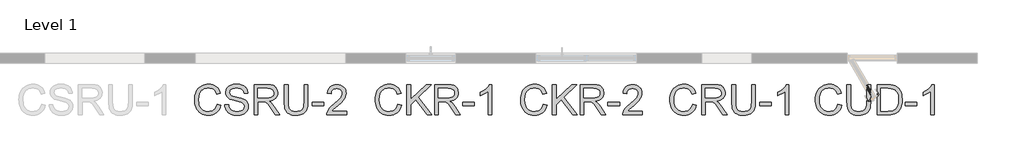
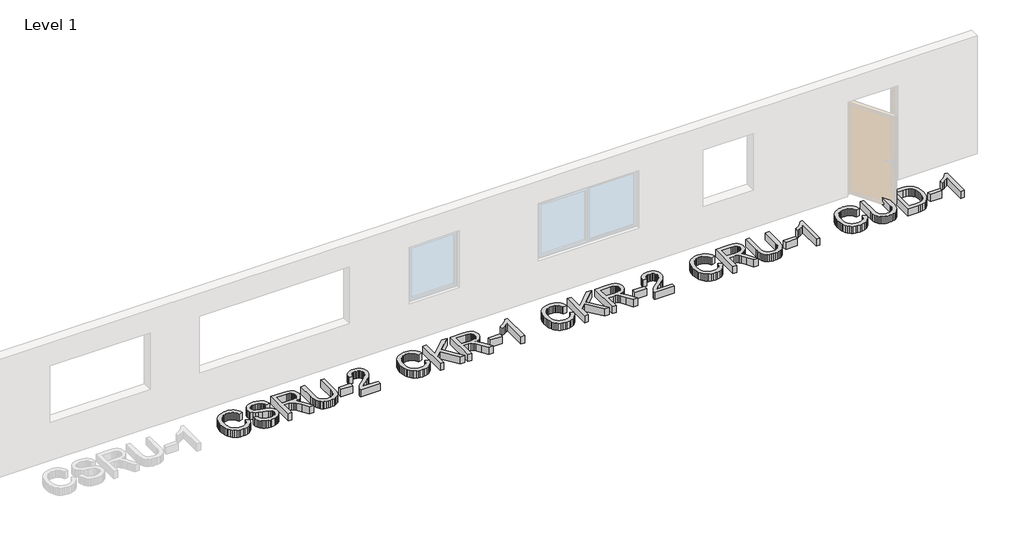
# One storey, part 2 of 2: 5 proxies.
"""IFC4 building model written with IfcOpenShell, lengths in millimetres."""

import ifcopenshell
import ifcopenshell.guid

model = None  # the IFC model being written
_history = None  # IfcOwnerHistory: only IFC2X3 demands one
_inside = {}  # id of a spatial element -> (the spatial element, [elements in it])
_under = {}  # id of a project, library or spatial element -> (it, [spatial elements below it])
_declared = {}  # id of a project -> (the project, [libraries it declares])
_typed = {}  # id of a type object -> (the type object, [elements of that type])
_made_of = {}  # id of a material, layer set ... -> (it, [elements and type objects made of it])


def new_model(schema):
    """Start an empty IFC model of exactly this schema.

    Asked for "IFC4X3", IfcOpenShell would pick the latest addendum, in which some entities
    have other attributes; the version numbers below select the first issue.
    IFC2X3 requires an IfcOwnerHistory on every rooted entity: one is made here for all.
    """
    global model, _history
    if schema == "IFC4X3":
        model = ifcopenshell.file(schema_version=(4, 3, 0, 0))
    else:
        model = ifcopenshell.file(schema=schema)
    _inside.clear()
    _under.clear()
    _declared.clear()
    _typed.clear()
    _made_of.clear()
    _history = None
    if model.schema == "IFC2X3":
        org = make("IfcOrganization", Name="unknown")
        user = make(
            "IfcPersonAndOrganization",
            ThePerson=make("IfcPerson", FamilyName="unknown"),
            TheOrganization=org,
        )
        app = make(
            "IfcApplication",
            ApplicationDeveloper=org,
            Version="unknown",
            ApplicationFullName="unknown",
            ApplicationIdentifier="unknown",
        )
        _history = make(
            "IfcOwnerHistory",
            OwningUser=user,
            OwningApplication=app,
            ChangeAction="ADDED",
            CreationDate=0,
        )
    return model


def make(cls, **values):
    """One entity of the class cls with the attributes given. An attribute that is None is left unset."""
    return model.create_entity(
        cls, **{name: value for name, value in values.items() if value is not None}
    )


def rooted(cls, **values):
    """An entity with a GlobalId (a new one), such as an element, a storey or a relation."""
    return make(cls, GlobalId=ifcopenshell.guid.new(), OwnerHistory=_history, **values)


def si_unit(unit_type, name, prefix=None):
    """IfcSIUnit, for example si_unit("LENGTHUNIT", "METRE", prefix="MILLI")."""
    return make("IfcSIUnit", UnitType=unit_type, Prefix=prefix, Name=name)


def assignment(units):
    """IfcUnitAssignment: the units of a project."""
    return None if units is None else make("IfcUnitAssignment", Units=units)


def point(xyz):
    """IfcCartesianPoint."""
    return None if xyz is None else make("IfcCartesianPoint", Coordinates=xyz)


def direction(xyz):
    """IfcDirection."""
    return None if xyz is None else make("IfcDirection", DirectionRatios=xyz)


def frame(location, z_axis=None, x_axis=None):
    """IfcAxis2Placement3D, a coordinate frame: its origin and axes. An axis left out is left unset."""
    return make(
        "IfcAxis2Placement3D",
        Location=point(location),
        Axis=direction(z_axis),
        RefDirection=direction(x_axis),
    )


def origin():
    """The frame at (0, 0, 0) with its axes left unset."""
    return frame((0.0, 0.0, 0.0))


def origin_with_axes():
    """The frame at (0, 0, 0) with the z axis (0, 0, 1) and the x axis (1, 0, 0) written out."""
    return frame((0.0, 0.0, 0.0), z_axis=(0.0, 0.0, 1.0), x_axis=(1.0, 0.0, 0.0))


def place(relative_to, where):
    """IfcLocalPlacement: puts the frame where relative to a parent placement (None: the world)."""
    return make(
        "IfcLocalPlacement", PlacementRelTo=relative_to, RelativePlacement=where
    )


def context(
    kind, dimensions, precision=None, world=None, true_north=None, identifier=None
):
    """IfcGeometricRepresentationContext, for example the 3D "Model" context."""
    return make(
        "IfcGeometricRepresentationContext",
        ContextIdentifier=identifier,
        ContextType=kind,
        CoordinateSpaceDimension=dimensions,
        Precision=precision,
        WorldCoordinateSystem=world,
        TrueNorth=true_north,
    )


def project(units=None, contexts=None):
    """IfcProject with its units and contexts."""
    return rooted(
        "IfcProject",
        Name="project",
        RepresentationContexts=contexts,
        UnitsInContext=assignment(units),
    )


def spatial(cls, under=None, at=None, **own):
    """A site, building, storey or space (cls), placed at a placement, below another one or the project."""
    s = rooted(cls, ObjectPlacement=at, **own)
    if under is not None:
        _under.setdefault(under.id(), (under, []))[1].append(s)
    return s


def polyline(points):
    """IfcPolyline through the points."""
    return make("IfcPolyline", Points=[point(p) for p in points])


def outline(outer, holes=None, kind="AREA"):
    """IfcArbitraryClosedProfileDef: a profile drawn as a closed curve; with holes, ...WithVoids."""
    if holes is None:
        return make("IfcArbitraryClosedProfileDef", ProfileType=kind, OuterCurve=outer)
    return make(
        "IfcArbitraryProfileDefWithVoids",
        ProfileType=kind,
        OuterCurve=outer,
        InnerCurves=holes,
    )


def extrude(swept, where, along, depth):
    """IfcExtrudedAreaSolid: the profile swept, set in the frame where, extruded along a direction by depth."""
    return make(
        "IfcExtrudedAreaSolid",
        SweptArea=swept,
        Position=where,
        ExtrudedDirection=direction(along),
        Depth=depth,
    )


def shape(context_of_items, identifier, shape_type, items):
    """IfcShapeRepresentation: the items that make up one representation, for example the "Body"."""
    return make(
        "IfcShapeRepresentation",
        ContextOfItems=context_of_items,
        RepresentationIdentifier=identifier,
        RepresentationType=shape_type,
        Items=items,
    )


def made_of(thing, what):
    """Note that an element or type object is made of a material, layer set ...; save() writes the relation."""
    if what is not None:
        _made_of.setdefault(what.id(), (what, []))[1].append(thing)
    return thing


def element(
    cls,
    number,
    at=None,
    inside=None,
    cuts=None,
    type_object=None,
    material=None,
    context=None,
    identifier="Body",
    shape_type=None,
    held_by="IfcProductDefinitionShape",
    body=None,
    shapes=None,
    **own,
):
    """One element of the class cls, such as IfcWall. Its Tag is "e" and its number.

    at: its placement. inside: the storey or other place that contains it. cuts: it is an
    opening in that element (IfcRelVoidsElement). A single representation is given by context,
    identifier, shape_type and body (its items); several are given by shapes. held_by: the class
    of the entity that holds the representations. save() writes the other relations.
    """
    e = rooted(cls, Tag="e%d" % number, ObjectPlacement=at, **own)
    if body is not None:
        shapes = [shape(context, identifier, shape_type, body)]
    if shapes is not None:
        e.Representation = make(held_by, Representations=shapes)
    if inside is not None:
        _inside.setdefault(inside.id(), (inside, []))[1].append(e)
    if cuts is not None:
        rooted(
            "IfcRelVoidsElement", RelatingBuildingElement=cuts, RelatedOpeningElement=e
        )
    if type_object is not None:
        _typed.setdefault(type_object.id(), (type_object, []))[1].append(e)
    return made_of(e, material)


def aggregate(whole, parts):
    """IfcRelAggregates: a whole, such as a stair, and the parts it consists of."""
    return rooted("IfcRelAggregates", RelatingObject=whole, RelatedObjects=parts)


def save(model, path):
    """Write the relations noted so far, then the file.

    IfcRelAggregates (storeys below a building ...), IfcRelContainedInSpatialStructure (elements
    in a storey), IfcRelDefinesByType, IfcRelAssociatesMaterial and IfcRelDeclares: one each for
    every whole, place, type object, material and project.
    """
    for whole, parts in _under.values():
        aggregate(whole, parts)
    for where, things in _inside.values():
        rooted(
            "IfcRelContainedInSpatialStructure",
            RelatedElements=things,
            RelatingStructure=where,
        )
    for kind, things in _typed.values():
        rooted("IfcRelDefinesByType", RelatedObjects=things, RelatingType=kind)
    for what, things in _made_of.values():
        rooted("IfcRelAssociatesMaterial", RelatedObjects=things, RelatingMaterial=what)
    for by, libraries in _declared.values():
        rooted("IfcRelDeclares", RelatingContext=by, RelatedDefinitions=libraries)
    model.write(path)


model = new_model("IFC4")

# Units and contexts
model_context = context("Model", 3, world=origin())
ifc_project = project(units=[si_unit("LENGTHUNIT", "METRE", prefix="MILLI")], contexts=[model_context])

# Site, building, storey
site = spatial("IfcSite", under=ifc_project)
building = spatial("IfcBuilding", under=site)
storey = spatial("IfcBuildingStorey", under=building, Name="Level 1", Elevation=0.0)

# Proxies
placement = place(None, origin())
element("IfcBuildingElementProxy", 1, Name="600mm Arial", ObjectType="600mm Arial", at=placement, inside=storey, context=model_context, shape_type="SweptSolid", body=[
    extrude(outline(polyline([(-1628.6523326, -1969.3341374), (-1553.3101, -1988.7583067), (-1568.2185178, -2035.6126773), (-1588.0749485, -2076.5533449), (-1612.8793921, -2111.5803093), (-1642.6318484, -2140.6935707), (-1676.660933, -2163.5804293), (-1714.2952611, -2179.9281855), (-1755.5348327, -2189.7368392), (-1800.3796479, -2193.0063904), (-1846.3235106, -2190.532384), (-1887.7700159, -2183.1103648), (-1924.7191638, -2170.7403327), (-1957.1709543, -2153.4222877), (-1985.5714443, -2131.4137474), (-2010.3666908, -2104.972229), (-2031.5566937, -2074.0977325), (-2049.1414531, -2038.7902581), (-2062.9508235, -2000.5765158), (-2072.8146595, -1960.9832161), (-2078.7329611, -1920.0103589), (-2080.7057283, -1877.6579442), (-2078.4754437, -1832.2153207), (-2071.7845899, -1789.7709355), (-2060.6331669, -1750.3247886), (-2045.0211747, -1713.8768799), (-2025.2981013, -1681.0296163), (-2001.8134344, -1652.3854044), (-1974.5671741, -1627.9442444), (-1943.5593205, -1607.7061361), (-1909.8429356, -1591.8366265), (-1874.4710818, -1580.5012626), (-1837.443759, -1573.7000442), (-1798.7609672, -1571.4329714), (-1755.66819, -1574.3668303), (-1716.1530651, -1583.168407), (-1680.2155927, -1597.8377016), (-1647.8557727, -1618.374714), (-1619.607034, -1644.2368182), (-1596.0028055, -1674.8813884), (-1577.0430872, -1710.3084246), (-1562.7278791, -1750.5179266), (-1638.0701117, -1768.470568), (-1649.934306, -1738.8422718), (-1664.1897333, -1713.527392), (-1680.8363936, -1692.5259286), (-1699.8742869, -1675.8378816), (-1721.4137777, -1663.1229602), (-1745.5652307, -1654.0408734), (-1772.3286458, -1648.5916213), (-1801.7040231, -1646.775204), (-1835.5031814, -1648.7893579), (-1866.4144661, -1654.8318197), (-1894.4378771, -1664.9025893), (-1919.5734144, -1679.0016668), (-1941.5037798, -1696.4944556), (-1959.9116752, -1716.7463595), (-1974.7971004, -1739.7573783), (-1986.1600555, -1765.527512), (-2000.5626356, -1820.6730231), (-2005.3634957, -1877.5107914), (-1999.6797188, -1947.1140649), (-1992.5749978, -1978.3840344), (-1982.6283884, -2007.2995593), (-1969.6789421, -2033.2858237), (-1953.5657107, -2055.7680121), (-1934.2886942, -2074.7461246), (-1911.8478925, -2090.220161), (-1887.333156, -2102.2269096), (-1861.8343352, -2110.8031586), (-1835.3514301, -2115.948908), (-1807.8844406, -2117.6641578), (-1775.1291475, -2115.3281071), (-1744.9950136, -2108.3199551), (-1717.4820389, -2096.6397018), (-1692.5902234, -2080.2873471), (-1670.9081783, -2059.3364675), (-1653.0245148, -2033.8606393), (-1638.9392329, -2003.8598626), (-1628.6523326, -1969.3341374)])), origin_with_axes(), (0.0, 0.0, 1.0), 150.0),
    extrude(outline(polyline([(-1477.9678674, -1976.3974717), (-1402.6256348, -1976.3974717), (-1393.9804079, -2018.2072604), (-1378.3454231, -2051.8132807), (-1353.9548468, -2078.4847253), (-1319.0428455, -2099.4907873), (-1276.368534, -2113.1208152), (-1228.6910274, -2117.6641578), (-1186.7156918, -2114.2244612), (-1149.9642805, -2103.9053712), (-1120.184233, -2087.5714106), (-1099.1229887, -2066.0871021), (-1086.5966068, -2041.4206143), (-1082.4211462, -2015.540116), (-1085.5481431, -1990.3218052), (-1094.929134, -1968.524797), (-1113.9854213, -1949.9283621), (-1146.1383077, -1934.3117714), (-1255.8407187, -1905.5433994), (-1327.8536192, -1886.5055061), (-1373.9308391, -1868.3873179), (-1411.4364085, -1843.0402484), (-1438.0158827, -1812.3221018), (-1453.8532026, -1776.8950657), (-1459.1323092, -1737.4213276), (-1457.4998329, -1714.9851244), (-1452.6024038, -1693.2938823), (-1444.440022, -1672.3476012), (-1433.0126876, -1652.1462811), (-1418.4491591, -1633.5130581), (-1400.8781953, -1617.271068), (-1380.2997962, -1603.4203109), (-1356.7139618, -1591.9607867), (-1303.7021663, -1576.5649252), (-1245.024988, -1571.4329714), (-1181.4549793, -1576.8040485), (-1125.8312216, -1592.9172799), (-1101.4958276, -1604.91943), (-1080.1402778, -1619.4415718), (-1061.7645721, -1636.4837052), (-1046.3687106, -1656.0458303), (-1034.0722549, -1677.5577299), (-1024.9947667, -1700.4491871), (-1019.1362459, -1724.7202017), (-1016.4966926, -1750.3707738), (-1091.8389252, -1750.3707738), (-1096.8789086, -1726.3296854), (-1105.6712883, -1705.415594), (-1118.2160643, -1687.6284996), (-1134.5132367, -1672.968402), (-1154.8663081, -1661.5088779), (-1179.5787811, -1653.3235035), (-1208.6506558, -1648.4122789), (-1242.0819321, -1646.775204), (-1276.5800662, -1648.3938848), (-1306.056611, -1653.2499271), (-1330.5115667, -1661.343331), (-1349.9449331, -1672.6740965), (-1364.7521834, -1686.2949273), (-1375.3287907, -1701.2585275), (-1381.6747551, -1717.5648969), (-1383.7900766, -1735.2140356), (-1382.2909575, -1750.398365), (-1377.7936001, -1764.1663487), (-1370.2980044, -1776.5179866), (-1359.8041705, -1787.4532789), (-1343.2862689, -1797.8091571), (-1317.2770119, -1808.2753999), (-1236.7844313, -1829.5389792), (-1153.7166768, -1849.7357007), (-1103.4639963, -1867.3572483), (-1060.5137733, -1894.6908805), (-1043.9084998, -1910.7581267), (-1030.5497848, -1928.4256595), (-1020.2812786, -1947.6015085), (-1012.9466314, -1968.1937032), (-1007.0789135, -2013.6271296), (-1008.7665722, -2037.1945699), (-1013.8295482, -2060.0722315), (-1022.2678414, -2082.2601143), (-1034.081452, -2103.7582184), (-1049.0634462, -2123.7342107), (-1067.0068906, -2141.3557583), (-1087.9117849, -2156.6228611), (-1111.7781294, -2169.5355191), (-1137.9115466, -2179.8040253), (-1165.6176594, -2187.1386726), (-1225.7479715, -2193.0063904), (-1264.288209, -2191.4244979), (-1299.5634938, -2186.6788201), (-1331.5738259, -2178.7693572), (-1360.3192053, -2167.6961092), (-1385.974376, -2153.4406818), (-1408.7140818, -2135.9846812), (-1428.5383228, -2115.3281071), (-1445.447099, -2091.4709598), (-1459.0679299, -2065.1857912), (-1469.0283349, -2037.2451537), (-1475.3283141, -2007.6490472), (-1477.9678674, -1976.3974717)])), origin_with_axes(), (0.0, 0.0, 1.0), 150.0),
    extrude(outline(polyline([(-894.0655646, -2183.5886114), (-894.0655646, -1580.8507505), (-634.340876, -1580.8507505), (-564.5352674, -1584.9158465), (-513.749158, -1597.1111346), (-494.1502447, -1606.8048252), (-476.6298647, -1619.6255127), (-461.188018, -1635.5731972), (-447.8247045, -1654.6478787), (-437.0411635, -1675.824086), (-429.3386342, -1698.0763482), (-424.7171167, -1721.4046652), (-423.1766108, -1745.8090371), (-425.7287921, -1776.766307), (-433.3853362, -1805.1851911), (-446.1462429, -1831.0656895), (-464.0115123, -1854.4078021), (-487.2110706, -1874.4665679), (-515.9748441, -1890.4970258), (-550.3028328, -1902.4991759), (-590.1950366, -1910.4730181), (-565.3630019, -1926.6966141), (-547.3735724, -1942.6994809), (-516.508273, -1979.3037394), (-486.3051612, -2020.2490055), (-385.7998001, -2183.5886114), (-473.3557149, -2183.5886114), (-551.7881563, -2058.6558858), (-608.4419836, -1975.9560133), (-629.5032278, -1951.8413485), (-648.2468155, -1936.8869454), (-684.0785218, -1922.5395476), (-727.7829028, -1919.8907972), (-818.723332, -1919.8907972), (-818.723332, -2183.5886114), (-894.0655646, -2183.5886114)]), holes=[polyline([(-818.723332, -1844.5485646), (-650.0862254, -1844.5485646), (-601.6545608, -1841.8814201), (-564.075415, -1833.8799867), (-535.7852895, -1820.0108355), (-515.220686, -1799.7405376), (-502.6943041, -1775.2212026), (-498.5188434, -1748.6049403), (-500.5100047, -1729.3371208), (-506.4834886, -1711.8535289), (-516.4392951, -1696.1541648), (-530.3774242, -1682.2390283), (-548.6197726, -1670.8438835), (-571.4882372, -1662.7044944), (-598.9828178, -1657.8208609), (-631.1035145, -1656.1929831), (-818.723332, -1656.1929831), (-818.723332, -1844.5485646)])]), origin_with_axes(), (0.0, 0.0, 1.0), 150.0),
    extrude(outline(polyline([(104.2190175, -1580.8507505), (179.5612501, -1580.8507505), (179.5612501, -1928.5728123), (174.4476904, -2010.0034919), (168.0557407, -2043.6968842), (159.1070112, -2072.708978), (146.8289496, -2098.1388209), (130.4490037, -2121.0854604), (109.9671737, -2141.5488964), (85.3834593, -2159.5291289), (56.6702696, -2174.1754308), (23.8000133, -2184.637075), (-13.2273095, -2190.9140616), (-54.4116988, -2193.0063904), (-94.5798142, -2191.1853746), (-130.9127597, -2185.7223269), (-163.4105355, -2176.6172475), (-192.0731414, -2163.8701364), (-216.9051761, -2147.669533), (-237.911238, -2128.203977), (-255.0913272, -2105.4734682), (-268.4454436, -2079.4780067), (-278.4564324, -2049.3254787), (-285.6071387, -2014.1237703), (-289.8975625, -1973.8728815), (-291.3277037, -1928.5728123), (-291.3277037, -1580.8507505), (-215.9854711, -1580.8507505), (-215.9854711, -1925.9240619), (-212.269863, -1993.6327431), (-201.1230385, -2040.7768208), (-192.35825, -2058.1546466), (-180.926317, -2073.4263479), (-166.8272395, -2086.5919248), (-150.0610176, -2097.6513773), (-109.8147273, -2112.6609627), (-61.4750331, -2117.6641578), (-19.9503529, -2115.1901514), (15.1547865, -2107.7681321), (43.840385, -2095.3981001), (66.1064428, -2078.0800551), (82.7806942, -2053.7262671), (94.6908738, -2020.2490055), (101.8369816, -1977.6482705), (104.2190175, -1925.9240619), (104.2190175, -1580.8507505)])), origin_with_axes(), (0.0, 0.0, 1.0), 150.0),
    extrude(outline(polyline([(264.3212618, -2004.6508089), (264.3212618, -1929.3085763), (499.7657387, -1929.3085763), (499.7657387, -2004.6508089), (264.3212618, -2004.6508089)])), origin_with_axes(), (0.0, 0.0, 1.0), 150.0),
    extrude(outline(polyline([(951.8191344, -2108.2463787), (951.8191344, -2183.5886114), (556.2724132, -2183.5886114), (557.9278821, -2157.0643195), (564.3658171, -2131.6436736), (582.9622519, -2091.0478955), (610.2039136, -2051.6661279), (649.5856812, -2010.4449503), (704.6024336, -1964.3309422), (785.8859604, -1892.1157066), (834.6119307, -1838.8096055), (848.8075772, -1817.0309914), (858.9473247, -1795.5466828), (865.0311732, -1774.3566799), (867.0591227, -1753.4609826), (865.1415378, -1733.8022885), (859.3887831, -1715.734684), (849.8008586, -1699.2581691), (836.3777643, -1684.3727439), (819.8644612, -1672.0440985), (801.0059104, -1663.2379233), (779.802112, -1657.9542181), (756.2530657, -1656.1929831), (731.4440237, -1657.9128314), (709.2561409, -1663.0723764), (689.6894172, -1671.671618), (672.7438528, -1683.7105563), (659.03565, -1698.7845211), (649.181011, -1716.4888421), (643.179936, -1736.8235194), (641.0324248, -1759.7885529), (565.6901922, -1750.3707738), (572.1695139, -1711.4764499), (583.9555333, -1677.4933506), (601.0482505, -1648.4214759), (623.4476655, -1624.2608259), (650.6387434, -1605.2689179), (682.1064496, -1591.7032693), (717.850784, -1583.5638802), (757.8717465, -1580.8507505), (798.251394, -1583.8673828), (834.1888664, -1592.9172799), (865.6841637, -1608.0004417), (892.7372859, -1629.1168682), (914.4653163, -1654.703061), (929.985338, -1683.1955215), (939.297351, -1714.5942498), (942.4013553, -1748.8992459), (939.0536291, -1784.9332873), (929.0104507, -1820.3419293), (911.186568, -1856.3575766), (884.4967293, -1894.2126339), (841.9511765, -1939.4069371), (776.5601519, -1997.4403218), (689.8871538, -2069.9130748), (655.8948575, -2108.2463787), (951.8191344, -2108.2463787)])), origin_with_axes(), (0.0, 0.0, 1.0), 150.0),
])
element("IfcBuildingElementProxy", 2, Name="600mm Arial", ObjectType="600mm Arial", at=placement, inside=storey, context=model_context, shape_type="SweptSolid", body=[
    extrude(outline(polyline([(1972.7165979, -1969.3341374), (2048.0588305, -1988.7583067), (2033.1504126, -2035.6126773), (2013.2939819, -2076.5533449), (1988.4895384, -2111.5803093), (1958.737082, -2140.6935707), (1924.7079975, -2163.5804293), (1887.0736694, -2179.9281855), (1845.8340977, -2189.7368392), (1800.9892825, -2193.0063904), (1755.0454198, -2190.532384), (1713.5989145, -2183.1103648), (1676.6497667, -2170.7403327), (1644.1979762, -2153.4222877), (1615.7974861, -2131.4137474), (1591.0022397, -2104.972229), (1569.8122367, -2074.0977325), (1552.2274774, -2038.7902581), (1538.418107, -2000.5765158), (1528.554271, -1960.9832161), (1522.6359694, -1920.0103589), (1520.6632022, -1877.6579442), (1522.8934868, -1832.2153207), (1529.5843406, -1789.7709355), (1540.7357635, -1750.3247886), (1556.3477557, -1713.8768799), (1576.0708292, -1681.0296163), (1599.555496, -1652.3854044), (1626.8017563, -1627.9442444), (1657.80961, -1607.7061361), (1691.5259948, -1591.8366265), (1726.8978487, -1580.5012626), (1763.9251715, -1573.7000442), (1802.6079633, -1571.4329714), (1845.7007405, -1574.3668303), (1885.2158653, -1583.168407), (1921.1533377, -1597.8377016), (1953.5131577, -1618.374714), (1981.7618964, -1644.2368182), (2005.3661249, -1674.8813884), (2024.3258433, -1710.3084246), (2038.6410514, -1750.5179266), (1963.2988188, -1768.470568), (1951.4346244, -1738.8422718), (1937.1791971, -1713.527392), (1920.5325368, -1692.5259286), (1901.4946436, -1675.8378816), (1879.9551528, -1663.1229602), (1855.8036998, -1654.0408734), (1829.0402846, -1648.5916213), (1799.6649073, -1646.775204), (1765.865749, -1648.7893579), (1734.9544644, -1654.8318197), (1706.9310534, -1664.9025893), (1681.7955161, -1679.0016668), (1659.8651506, -1696.4944556), (1641.4572553, -1716.7463595), (1626.5718301, -1739.7573783), (1615.2088749, -1765.527512), (1600.8062948, -1820.6730231), (1596.0054348, -1877.5107914), (1601.6892116, -1947.1140649), (1608.7939326, -1978.3840344), (1618.7405421, -2007.2995593), (1631.6899883, -2033.2858237), (1647.8032197, -2055.7680121), (1667.0802363, -2074.7461246), (1689.521038, -2090.220161), (1714.0357744, -2102.2269096), (1739.5345952, -2110.8031586), (1766.0175003, -2115.948908), (1793.4844898, -2117.6641578), (1826.2397829, -2115.3281071), (1856.3739169, -2108.3199551), (1883.8868916, -2096.6397018), (1908.7787071, -2080.2873471), (1930.4607522, -2059.3364675), (1948.3444157, -2033.8606393), (1962.4296976, -2003.8598626), (1972.7165979, -1969.3341374)])), origin_with_axes(), (0.0, 0.0, 1.0), 150.0),
    extrude(outline(polyline([(2151.6544003, -2183.5886114), (2151.6544003, -1580.8507505), (2226.9966329, -1580.8507505), (2226.9966329, -1875.8921106), (2536.0175089, -1580.8507505), (2641.3789123, -1580.8507505), (2381.8013765, -1828.6560624), (2650.7966914, -2183.5886114), (2558.6790398, -2183.5886114), (2328.3849108, -1879.5709305), (2226.9966329, -1976.3974717), (2226.9966329, -2183.5886114), (2151.6544003, -2183.5886114)])), origin_with_axes(), (0.0, 0.0, 1.0), 150.0),
    extrude(outline(polyline([(2707.3033658, -2183.5886114), (2707.3033658, -1580.8507505), (2967.0280544, -1580.8507505), (3036.833663, -1584.9158465), (3087.6197724, -1597.1111346), (3107.2186857, -1606.8048252), (3124.7390657, -1619.6255127), (3140.1809125, -1635.5731972), (3153.544226, -1654.6478787), (3164.327767, -1675.824086), (3172.0302962, -1698.0763482), (3176.6518138, -1721.4046652), (3178.1923196, -1745.8090371), (3175.6401383, -1776.766307), (3167.9835943, -1805.1851911), (3155.2226876, -1831.0656895), (3137.3574182, -1854.4078021), (3114.1578599, -1874.4665679), (3085.3940864, -1890.4970258), (3051.0660977, -1902.4991759), (3011.1738938, -1910.4730181), (3036.0059285, -1926.6966141), (3053.9953581, -1942.6994809), (3084.8606575, -1979.3037394), (3115.0637693, -2020.2490055), (3215.5691304, -2183.5886114), (3128.0132155, -2183.5886114), (3049.5807741, -2058.6558858), (2992.9269469, -1975.9560133), (2971.8657027, -1951.8413485), (2953.122115, -1936.8869454), (2917.2904087, -1922.5395476), (2873.5860276, -1919.8907972), (2782.6455984, -1919.8907972), (2782.6455984, -2183.5886114), (2707.3033658, -2183.5886114)]), holes=[polyline([(2782.6455984, -1844.5485646), (2951.282705, -1844.5485646), (2999.7143697, -1841.8814201), (3037.2935155, -1833.8799867), (3065.5836409, -1820.0108355), (3086.1482445, -1799.7405376), (3098.6746264, -1775.2212026), (3102.850087, -1748.6049403), (3100.8589257, -1729.3371208), (3094.8854418, -1711.8535289), (3084.9296353, -1696.1541648), (3070.9915063, -1682.2390283), (3052.7491578, -1670.8438835), (3029.8806933, -1662.7044944), (3002.3861127, -1657.8208609), (2970.265416, -1656.1929831), (2782.6455984, -1656.1929831), (2782.6455984, -1844.5485646)])]), origin_with_axes(), (0.0, 0.0, 1.0), 150.0),
    extrude(outline(polyline([(3262.9523313, -2004.6508089), (3262.9523313, -1929.3085763), (3498.3968082, -1929.3085763), (3498.3968082, -2004.6508089), (3262.9523313, -2004.6508089)])), origin_with_axes(), (0.0, 0.0, 1.0), 150.0),
    extrude(outline(polyline([(3846.8546341, -2183.5886114), (3771.5124015, -2183.5886114), (3771.5124015, -1713.8768799), (3740.0584909, -1739.3159199), (3700.1432944, -1764.7181716), (3658.2415352, -1786.9198501), (3620.8279362, -1802.7571699), (3620.8279362, -1731.5352157), (3680.0017552, -1699.3455411), (3731.2661112, -1661.0490254), (3771.6779484, -1620.3244885), (3798.2942107, -1580.8507505), (3846.8546341, -1580.8507505), (3846.8546341, -2183.5886114)])), origin_with_axes(), (0.0, 0.0, 1.0), 150.0),
])
element("IfcBuildingElementProxy", 3, Name="600mm Arial", ObjectType="600mm Arial", at=placement, inside=storey, context=model_context, shape_type="SweptSolid", body=[
    extrude(outline(polyline([(4872.7165979, -1969.3341374), (4948.0588305, -1988.7583067), (4933.1504126, -2035.6126773), (4913.2939819, -2076.5533449), (4888.4895384, -2111.5803093), (4858.737082, -2140.6935707), (4824.7079975, -2163.5804293), (4787.0736694, -2179.9281855), (4745.8340977, -2189.7368392), (4700.9892825, -2193.0063904), (4655.0454198, -2190.532384), (4613.5989145, -2183.1103648), (4576.6497667, -2170.7403327), (4544.1979762, -2153.4222877), (4515.7974861, -2131.4137474), (4491.0022397, -2104.972229), (4469.8122367, -2074.0977325), (4452.2274774, -2038.7902581), (4438.418107, -2000.5765158), (4428.554271, -1960.9832161), (4422.6359694, -1920.0103589), (4420.6632022, -1877.6579442), (4422.8934868, -1832.2153207), (4429.5843406, -1789.7709355), (4440.7357635, -1750.3247886), (4456.3477557, -1713.8768799), (4476.0708292, -1681.0296163), (4499.555496, -1652.3854044), (4526.8017563, -1627.9442444), (4557.80961, -1607.7061361), (4591.5259948, -1591.8366265), (4626.8978487, -1580.5012626), (4663.9251715, -1573.7000442), (4702.6079633, -1571.4329714), (4745.7007405, -1574.3668303), (4785.2158653, -1583.168407), (4821.1533377, -1597.8377016), (4853.5131577, -1618.374714), (4881.7618964, -1644.2368182), (4905.3661249, -1674.8813884), (4924.3258433, -1710.3084246), (4938.6410514, -1750.5179266), (4863.2988188, -1768.470568), (4851.4346244, -1738.8422718), (4837.1791971, -1713.527392), (4820.5325368, -1692.5259286), (4801.4946436, -1675.8378816), (4779.9551528, -1663.1229602), (4755.8036998, -1654.0408734), (4729.0402846, -1648.5916213), (4699.6649073, -1646.775204), (4665.865749, -1648.7893579), (4634.9544644, -1654.8318197), (4606.9310534, -1664.9025893), (4581.7955161, -1679.0016668), (4559.8651506, -1696.4944556), (4541.4572553, -1716.7463595), (4526.5718301, -1739.7573783), (4515.2088749, -1765.527512), (4500.8062948, -1820.6730231), (4496.0054348, -1877.5107914), (4501.6892116, -1947.1140649), (4508.7939326, -1978.3840344), (4518.7405421, -2007.2995593), (4531.6899883, -2033.2858237), (4547.8032197, -2055.7680121), (4567.0802363, -2074.7461246), (4589.521038, -2090.220161), (4614.0357744, -2102.2269096), (4639.5345952, -2110.8031586), (4666.0175003, -2115.948908), (4693.4844898, -2117.6641578), (4726.2397829, -2115.3281071), (4756.3739169, -2108.3199551), (4783.8868916, -2096.6397018), (4808.7787071, -2080.2873471), (4830.4607522, -2059.3364675), (4848.3444157, -2033.8606393), (4862.4296976, -2003.8598626), (4872.7165979, -1969.3341374)])), origin_with_axes(), (0.0, 0.0, 1.0), 150.0),
    extrude(outline(polyline([(5051.6544003, -2183.5886114), (5051.6544003, -1580.8507505), (5126.9966329, -1580.8507505), (5126.9966329, -1875.8921106), (5436.0175089, -1580.8507505), (5541.3789123, -1580.8507505), (5281.8013765, -1828.6560624), (5550.7966914, -2183.5886114), (5458.6790398, -2183.5886114), (5228.3849108, -1879.5709305), (5126.9966329, -1976.3974717), (5126.9966329, -2183.5886114), (5051.6544003, -2183.5886114)])), origin_with_axes(), (0.0, 0.0, 1.0), 150.0),
    extrude(outline(polyline([(5607.3033658, -2183.5886114), (5607.3033658, -1580.8507505), (5867.0280544, -1580.8507505), (5936.833663, -1584.9158465), (5987.6197724, -1597.1111346), (6007.2186857, -1606.8048252), (6024.7390657, -1619.6255127), (6040.1809125, -1635.5731972), (6053.544226, -1654.6478787), (6064.327767, -1675.824086), (6072.0302962, -1698.0763482), (6076.6518138, -1721.4046652), (6078.1923196, -1745.8090371), (6075.6401383, -1776.766307), (6067.9835943, -1805.1851911), (6055.2226876, -1831.0656895), (6037.3574182, -1854.4078021), (6014.1578599, -1874.4665679), (5985.3940864, -1890.4970258), (5951.0660977, -1902.4991759), (5911.1738938, -1910.4730181), (5936.0059285, -1926.6966141), (5953.9953581, -1942.6994809), (5984.8606575, -1979.3037394), (6015.0637693, -2020.2490055), (6115.5691304, -2183.5886114), (6028.0132155, -2183.5886114), (5949.5807741, -2058.6558858), (5892.9269469, -1975.9560133), (5871.8657027, -1951.8413485), (5853.122115, -1936.8869454), (5817.2904087, -1922.5395476), (5773.5860276, -1919.8907972), (5682.6455984, -1919.8907972), (5682.6455984, -2183.5886114), (5607.3033658, -2183.5886114)]), holes=[polyline([(5682.6455984, -1844.5485646), (5851.282705, -1844.5485646), (5899.7143697, -1841.8814201), (5937.2935155, -1833.8799867), (5965.5836409, -1820.0108355), (5986.1482445, -1799.7405376), (5998.6746264, -1775.2212026), (6002.850087, -1748.6049403), (6000.8589257, -1729.3371208), (5994.8854418, -1711.8535289), (5984.9296353, -1696.1541648), (5970.9915063, -1682.2390283), (5952.7491578, -1670.8438835), (5929.8806933, -1662.7044944), (5902.3861127, -1657.8208609), (5870.265416, -1656.1929831), (5682.6455984, -1656.1929831), (5682.6455984, -1844.5485646)])]), origin_with_axes(), (0.0, 0.0, 1.0), 150.0),
    extrude(outline(polyline([(6162.9523313, -2004.6508089), (6162.9523313, -1929.3085763), (6398.3968082, -1929.3085763), (6398.3968082, -2004.6508089), (6162.9523313, -2004.6508089)])), origin_with_axes(), (0.0, 0.0, 1.0), 150.0),
    extrude(outline(polyline([(6850.4502039, -2108.2463787), (6850.4502039, -2183.5886114), (6454.9034827, -2183.5886114), (6456.5589517, -2157.0643195), (6462.9968866, -2131.6436736), (6481.5933215, -2091.0478955), (6508.8349832, -2051.6661279), (6548.2167508, -2010.4449503), (6603.2335032, -1964.3309422), (6684.51703, -1892.1157066), (6733.2430003, -1838.8096055), (6747.4386467, -1817.0309914), (6757.5783942, -1795.5466828), (6763.6622427, -1774.3566799), (6765.6901922, -1753.4609826), (6763.7726073, -1733.8022885), (6758.0198526, -1715.734684), (6748.4319281, -1699.2581691), (6735.0088338, -1684.3727439), (6718.4955308, -1672.0440985), (6699.63698, -1663.2379233), (6678.4331815, -1657.9542181), (6654.8841353, -1656.1929831), (6630.0750932, -1657.9128314), (6607.8872104, -1663.0723764), (6588.3204868, -1671.671618), (6571.3749224, -1683.7105563), (6557.6667195, -1698.7845211), (6547.8120806, -1716.4888421), (6541.8110055, -1736.8235194), (6539.6634944, -1759.7885529), (6464.3212618, -1750.3707738), (6470.8005834, -1711.4764499), (6482.5866028, -1677.4933506), (6499.67932, -1648.4214759), (6522.078735, -1624.2608259), (6549.269813, -1605.2689179), (6580.7375192, -1591.7032693), (6616.4818535, -1583.5638802), (6656.5028161, -1580.8507505), (6696.8824636, -1583.8673828), (6732.819936, -1592.9172799), (6764.3152333, -1608.0004417), (6791.3683555, -1629.1168682), (6813.0963858, -1654.703061), (6828.6164075, -1683.1955215), (6837.9284205, -1714.5942498), (6841.0324248, -1748.8992459), (6837.6846987, -1784.9332873), (6827.6415202, -1820.3419293), (6809.8176376, -1856.3575766), (6783.1277988, -1894.2126339), (6740.5822461, -1939.4069371), (6675.1912214, -1997.4403218), (6588.5182234, -2069.9130748), (6554.525927, -2108.2463787), (6850.4502039, -2108.2463787)])), origin_with_axes(), (0.0, 0.0, 1.0), 150.0),
])
element("IfcBuildingElementProxy", 4, Name="600mm Arial", ObjectType="600mm Arial", at=placement, inside=storey, context=model_context, shape_type="SweptSolid", body=[
    extrude(outline(polyline([(7849.1721502, -1969.3341374), (7924.5143828, -1988.7583067), (7909.6059649, -2035.6126773), (7889.7495342, -2076.5533449), (7864.9450907, -2111.5803093), (7835.1926343, -2140.6935707), (7801.1635498, -2163.5804293), (7763.5292217, -2179.9281855), (7722.28965, -2189.7368392), (7677.4448348, -2193.0063904), (7631.5009721, -2190.532384), (7590.0544669, -2183.1103648), (7553.105319, -2170.7403327), (7520.6535285, -2153.4222877), (7492.2530384, -2131.4137474), (7467.457792, -2104.972229), (7446.267789, -2074.0977325), (7428.6830297, -2038.7902581), (7414.8736593, -2000.5765158), (7405.0098233, -1960.9832161), (7399.0915217, -1920.0103589), (7397.1187545, -1877.6579442), (7399.3490391, -1832.2153207), (7406.0398929, -1789.7709355), (7417.1913158, -1750.3247886), (7432.803308, -1713.8768799), (7452.5263815, -1681.0296163), (7476.0110484, -1652.3854044), (7503.2573086, -1627.9442444), (7534.2651623, -1607.7061361), (7567.9815471, -1591.8366265), (7603.353401, -1580.5012626), (7640.3807238, -1573.7000442), (7679.0635156, -1571.4329714), (7722.1562928, -1574.3668303), (7761.6714176, -1583.168407), (7797.60889, -1597.8377016), (7829.96871, -1618.374714), (7858.2174487, -1644.2368182), (7881.8216772, -1674.8813884), (7900.7813956, -1710.3084246), (7915.0966037, -1750.5179266), (7839.7543711, -1768.470568), (7827.8901767, -1738.8422718), (7813.6347494, -1713.527392), (7796.9880891, -1692.5259286), (7777.9501959, -1675.8378816), (7756.4107051, -1663.1229602), (7732.2592521, -1654.0408734), (7705.4958369, -1648.5916213), (7676.1204596, -1646.775204), (7642.3213013, -1648.7893579), (7611.4100167, -1654.8318197), (7583.3866057, -1664.9025893), (7558.2510684, -1679.0016668), (7536.3207029, -1696.4944556), (7517.9128076, -1716.7463595), (7503.0273824, -1739.7573783), (7491.6644272, -1765.527512), (7477.2618471, -1820.6730231), (7472.4609871, -1877.5107914), (7478.1447639, -1947.1140649), (7485.249485, -1978.3840344), (7495.1960944, -2007.2995593), (7508.1455406, -2033.2858237), (7524.258772, -2055.7680121), (7543.5357886, -2074.7461246), (7565.9765903, -2090.220161), (7590.4913267, -2102.2269096), (7615.9901475, -2110.8031586), (7642.4730526, -2115.948908), (7669.9400421, -2117.6641578), (7702.6953353, -2115.3281071), (7732.8294692, -2108.3199551), (7760.3424439, -2096.6397018), (7785.2342594, -2080.2873471), (7806.9163045, -2059.3364675), (7824.799968, -2033.8606393), (7838.8852499, -2003.8598626), (7849.1721502, -1969.3341374)])), origin_with_axes(), (0.0, 0.0, 1.0), 150.0),
    extrude(outline(polyline([(8028.1099526, -2183.5886114), (8028.1099526, -1580.8507505), (8287.8346412, -1580.8507505), (8357.6402498, -1584.9158465), (8408.4263592, -1597.1111346), (8428.0252725, -1606.8048252), (8445.5456525, -1619.6255127), (8460.9874993, -1635.5731972), (8474.3508128, -1654.6478787), (8485.1343537, -1675.824086), (8492.836883, -1698.0763482), (8497.4584006, -1721.4046652), (8498.9989064, -1745.8090371), (8496.4467251, -1776.766307), (8488.7901811, -1805.1851911), (8476.0292744, -1831.0656895), (8458.164005, -1854.4078021), (8434.9644467, -1874.4665679), (8406.2006732, -1890.4970258), (8371.8726845, -1902.4991759), (8331.9804806, -1910.4730181), (8356.8125153, -1926.6966141), (8374.8019449, -1942.6994809), (8405.6672443, -1979.3037394), (8435.8703561, -2020.2490055), (8536.3757172, -2183.5886114), (8448.8198023, -2183.5886114), (8370.3873609, -2058.6558858), (8313.7335337, -1975.9560133), (8292.6722894, -1951.8413485), (8273.9287018, -1936.8869454), (8238.0969955, -1922.5395476), (8194.3926144, -1919.8907972), (8103.4521852, -1919.8907972), (8103.4521852, -2183.5886114), (8028.1099526, -2183.5886114)]), holes=[polyline([(8103.4521852, -1844.5485646), (8272.0892918, -1844.5485646), (8320.5209565, -1841.8814201), (8358.1001023, -1833.8799867), (8386.3902277, -1820.0108355), (8406.9548312, -1799.7405376), (8419.4812132, -1775.2212026), (8423.6566738, -1748.6049403), (8421.6655125, -1729.3371208), (8415.6920286, -1711.8535289), (8405.7362221, -1696.1541648), (8391.798093, -1682.2390283), (8373.5557446, -1670.8438835), (8350.6872801, -1662.7044944), (8323.1926995, -1657.8208609), (8291.0720028, -1656.1929831), (8103.4521852, -1656.1929831), (8103.4521852, -1844.5485646)])]), origin_with_axes(), (0.0, 0.0, 1.0), 150.0),
    extrude(outline(polyline([(9026.3945347, -1580.8507505), (9101.7367673, -1580.8507505), (9101.7367673, -1928.5728123), (9096.6232076, -2010.0034919), (9090.2312579, -2043.6968842), (9081.2825284, -2072.708978), (9069.0044668, -2098.1388209), (9052.624521, -2121.0854604), (9032.1426909, -2141.5488964), (9007.5589766, -2159.5291289), (8978.8457868, -2174.1754308), (8945.9755306, -2184.637075), (8908.9482078, -2190.9140616), (8867.7638184, -2193.0063904), (8827.5957031, -2191.1853746), (8791.2627575, -2185.7223269), (8758.7649818, -2176.6172475), (8730.1023758, -2163.8701364), (8705.2703411, -2147.669533), (8684.2642792, -2128.203977), (8667.08419, -2105.4734682), (8653.7300736, -2079.4780067), (8643.7190848, -2049.3254787), (8636.5683785, -2014.1237703), (8632.2779548, -1973.8728815), (8630.8478135, -1928.5728123), (8630.8478135, -1580.8507505), (8706.1900461, -1580.8507505), (8706.1900461, -1925.9240619), (8709.9056543, -1993.6327431), (8721.0524787, -2040.7768208), (8729.8172673, -2058.1546466), (8741.2492003, -2073.4263479), (8755.3482777, -2086.5919248), (8772.1144997, -2097.6513773), (8812.3607899, -2112.6609627), (8860.7004841, -2117.6641578), (8902.2251643, -2115.1901514), (8937.3303037, -2107.7681321), (8966.0159023, -2095.3981001), (8988.28196, -2078.0800551), (9004.9562115, -2053.7262671), (9016.8663911, -2020.2490055), (9024.0124988, -1977.6482705), (9026.3945347, -1925.9240619), (9026.3945347, -1580.8507505)])), origin_with_axes(), (0.0, 0.0, 1.0), 150.0),
    extrude(outline(polyline([(9186.496779, -2004.6508089), (9186.496779, -1929.3085763), (9421.9412559, -1929.3085763), (9421.9412559, -2004.6508089), (9186.496779, -2004.6508089)])), origin_with_axes(), (0.0, 0.0, 1.0), 150.0),
    extrude(outline(polyline([(9770.3990818, -2183.5886114), (9695.0568492, -2183.5886114), (9695.0568492, -1713.8768799), (9663.6029386, -1739.3159199), (9623.6877421, -1764.7181716), (9581.7859828, -1786.9198501), (9544.3723839, -1802.7571699), (9544.3723839, -1731.5352157), (9603.5462029, -1699.3455411), (9654.8105589, -1661.0490254), (9695.2223961, -1620.3244885), (9721.8386584, -1580.8507505), (9770.3990818, -1580.8507505), (9770.3990818, -2183.5886114)])), origin_with_axes(), (0.0, 0.0, 1.0), 150.0),
])
element("IfcBuildingElementProxy", 5, Name="600mm Arial", ObjectType="600mm Arial", at=placement, inside=storey, context=model_context, shape_type="SweptSolid", body=[
    extrude(outline(polyline([(10749.1721502, -1969.3341374), (10824.5143828, -1988.7583067), (10809.6059649, -2035.6126773), (10789.7495342, -2076.5533449), (10764.9450907, -2111.5803093), (10735.1926343, -2140.6935707), (10701.1635498, -2163.5804293), (10663.5292217, -2179.9281855), (10622.28965, -2189.7368392), (10577.4448348, -2193.0063904), (10531.5009721, -2190.532384), (10490.0544669, -2183.1103648), (10453.105319, -2170.7403327), (10420.6535285, -2153.4222877), (10392.2530384, -2131.4137474), (10367.457792, -2104.972229), (10346.267789, -2074.0977325), (10328.6830297, -2038.7902581), (10314.8736593, -2000.5765158), (10305.0098233, -1960.9832161), (10299.0915217, -1920.0103589), (10297.1187545, -1877.6579442), (10299.3490391, -1832.2153207), (10306.0398929, -1789.7709355), (10317.1913158, -1750.3247886), (10332.803308, -1713.8768799), (10352.5263815, -1681.0296163), (10376.0110484, -1652.3854044), (10403.2573086, -1627.9442444), (10434.2651623, -1607.7061361), (10467.9815471, -1591.8366265), (10503.353401, -1580.5012626), (10540.3807238, -1573.7000442), (10579.0635156, -1571.4329714), (10622.1562928, -1574.3668303), (10661.6714176, -1583.168407), (10697.60889, -1597.8377016), (10729.96871, -1618.374714), (10758.2174487, -1644.2368182), (10781.8216772, -1674.8813884), (10800.7813956, -1710.3084246), (10815.0966037, -1750.5179266), (10739.7543711, -1768.470568), (10727.8901767, -1738.8422718), (10713.6347494, -1713.527392), (10696.9880891, -1692.5259286), (10677.9501959, -1675.8378816), (10656.4107051, -1663.1229602), (10632.2592521, -1654.0408734), (10605.4958369, -1648.5916213), (10576.1204596, -1646.775204), (10542.3213013, -1648.7893579), (10511.4100167, -1654.8318197), (10483.3866057, -1664.9025893), (10458.2510684, -1679.0016668), (10436.3207029, -1696.4944556), (10417.9128076, -1716.7463595), (10403.0273824, -1739.7573783), (10391.6644272, -1765.527512), (10377.2618471, -1820.6730231), (10372.4609871, -1877.5107914), (10378.1447639, -1947.1140649), (10385.249485, -1978.3840344), (10395.1960944, -2007.2995593), (10408.1455406, -2033.2858237), (10424.258772, -2055.7680121), (10443.5357886, -2074.7461246), (10465.9765903, -2090.220161), (10490.4913267, -2102.2269096), (10515.9901475, -2110.8031586), (10542.4730526, -2115.948908), (10569.9400421, -2117.6641578), (10602.6953353, -2115.3281071), (10632.8294692, -2108.3199551), (10660.3424439, -2096.6397018), (10685.2342594, -2080.2873471), (10706.9163045, -2059.3364675), (10724.799968, -2033.8606393), (10738.8852499, -2003.8598626), (10749.1721502, -1969.3341374)])), origin_with_axes(), (0.0, 0.0, 1.0), 150.0),
    extrude(outline(polyline([(11323.6566738, -1580.8507505), (11398.9989064, -1580.8507505), (11398.9989064, -1928.5728123), (11393.8853467, -2010.0034919), (11387.493397, -2043.6968842), (11378.5446675, -2072.708978), (11366.2666059, -2098.1388209), (11349.8866601, -2121.0854604), (11329.40483, -2141.5488964), (11304.8211157, -2159.5291289), (11276.107926, -2174.1754308), (11243.2376697, -2184.637075), (11206.2103469, -2190.9140616), (11165.0259575, -2193.0063904), (11124.8578422, -2191.1853746), (11088.5248966, -2185.7223269), (11056.0271209, -2176.6172475), (11027.3645149, -2163.8701364), (11002.5324802, -2147.669533), (10981.5264183, -2128.203977), (10964.3463291, -2105.4734682), (10950.9922127, -2079.4780067), (10940.9812239, -2049.3254787), (10933.8305176, -2014.1237703), (10929.5400939, -1973.8728815), (10928.1099526, -1928.5728123), (10928.1099526, -1580.8507505), (11003.4521852, -1580.8507505), (11003.4521852, -1925.9240619), (11007.1677934, -1993.6327431), (11018.3146178, -2040.7768208), (11027.0794064, -2058.1546466), (11038.5113394, -2073.4263479), (11052.6104168, -2086.5919248), (11069.3766388, -2097.6513773), (11109.622929, -2112.6609627), (11157.9626232, -2117.6641578), (11199.4873034, -2115.1901514), (11234.5924428, -2107.7681321), (11263.2780414, -2095.3981001), (11285.5440991, -2078.0800551), (11302.2183506, -2053.7262671), (11314.1285302, -2020.2490055), (11321.2746379, -1977.6482705), (11323.6566738, -1925.9240619), (11323.6566738, -1580.8507505)])), origin_with_axes(), (0.0, 0.0, 1.0), 150.0),
    extrude(outline(polyline([(11530.8478135, -2183.5886114), (11530.8478135, -1580.8507505), (11738.7747172, -1580.8507505), (11800.9099862, -1583.0212542), (11846.3434126, -1589.5327655), (11894.3888011, -1606.2713963), (11934.929397, -1632.6485354), (11957.2690312, -1654.2064203), (11976.6104271, -1678.5602084), (11992.9535847, -1705.7098996), (12006.2985041, -1735.655494), (12016.6635793, -1768.1210801), (12024.0672044, -1802.8307463), (12029.9901046, -1878.9823193), (12025.9801908, -1943.6743682), (12013.9504496, -2000.604107), (11995.6299262, -2049.0725598), (11972.7476661, -2088.380751), (11946.4073153, -2119.4115973), (11917.7125196, -2143.0480155), (11884.768687, -2160.5775926), (11845.681225, -2173.2879155), (11800.3765573, -2181.0134374), (11748.7811075, -2183.5886114), (11530.8478135, -2183.5886114)]), holes=[polyline([(11606.1900461, -2108.2463787), (11739.5104812, -2108.2463787), (11794.6559923, -2105.524052), (11836.4841751, -2097.3570717), (11868.0484503, -2084.2236845), (11892.4022384, -2066.6021369), (11918.5770423, -2033.989398), (11938.240335, -1991.7749391), (11950.5459877, -1939.7748191), (11954.647872, -1877.805097), (11952.6383166, -1834.0639277), (11946.6096504, -1795.6938356), (11936.5618734, -1762.6948207), (11922.4949856, -1735.0668828), (11905.5494212, -1712.1846227), (11886.8656143, -1693.422641), (11866.4435651, -1678.7809376), (11844.2832734, -1668.2595125), (11800.9467744, -1659.2096154), (11737.450342, -1656.1929831), (11606.1900461, -1656.1929831), (11606.1900461, -2108.2463787)])]), origin_with_axes(), (0.0, 0.0, 1.0), 150.0),
    extrude(outline(polyline([(12086.496779, -2004.6508089), (12086.496779, -1929.3085763), (12321.9412559, -1929.3085763), (12321.9412559, -2004.6508089), (12086.496779, -2004.6508089)])), origin_with_axes(), (0.0, 0.0, 1.0), 150.0),
    extrude(outline(polyline([(12670.3990818, -2183.5886114), (12595.0568492, -2183.5886114), (12595.0568492, -1713.8768799), (12563.6029386, -1739.3159199), (12523.6877421, -1764.7181716), (12481.7859828, -1786.9198501), (12444.3723839, -1802.7571699), (12444.3723839, -1731.5352157), (12503.5462029, -1699.3455411), (12554.8105589, -1661.0490254), (12595.2223961, -1620.3244885), (12621.8386584, -1580.8507505), (12670.3990818, -1580.8507505), (12670.3990818, -2183.5886114)])), origin_with_axes(), (0.0, 0.0, 1.0), 150.0),
])

save(model, "model.ifc")
